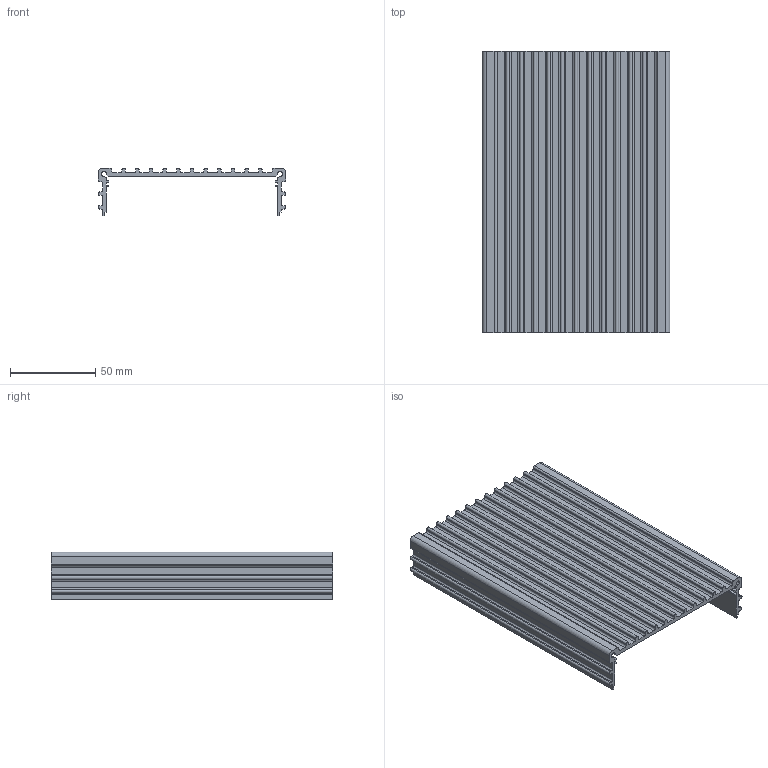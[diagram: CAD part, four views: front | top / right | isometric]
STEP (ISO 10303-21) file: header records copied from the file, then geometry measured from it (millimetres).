
FILE_DESCRIPTION (( 'STEP AP214' ), '1' );
FILE_NAME ('12020-profil.STEP', '2019-10-29T08:01:12', ( '' ), ( '' ), 'SwSTEP 2.0', 'SolidWorks 2019', '' );
FILE_SCHEMA (( 'AUTOMOTIVE_DESIGN' ));
Length unit declared in the file: millimetre
Products named in the file (1): 12020-profil
Bounding box: 110 x 165 x 28 mm (x, y, z)
Volume: 79313.2 mm3; surface area: 68382.6 mm2
Topology: 1 solids, 1 shells, 160 faces, 474 edges, 316 vertices
Faces by surface type: plane 87, cylinder 73
Entity records: 5418 total; most frequent: CARTESIAN_POINT 951, ORIENTED_EDGE 948, DIRECTION 942, EDGE_CURVE 474, VECTOR 328, LINE 328, VERTEX_POINT 316, AXIS2_PLACEMENT_3D 307
